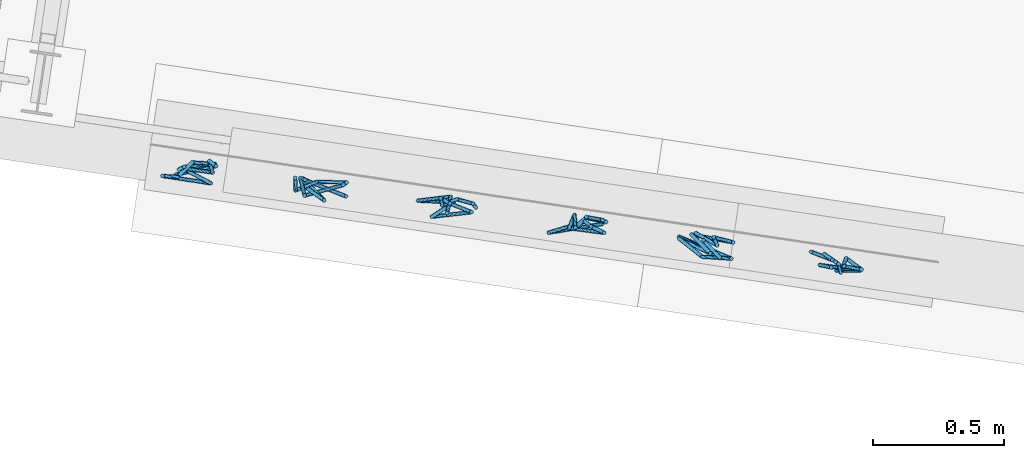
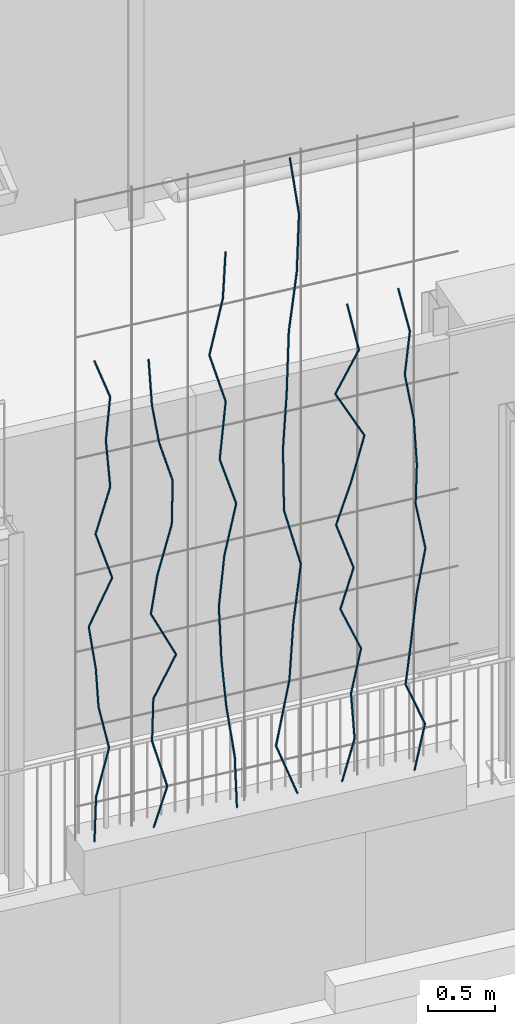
# One storey, part 105 of 142: 66 members, 1 element without a shape of its own.
"""IFC4 building model written with IfcOpenShell, lengths in metres."""

from ifc_helpers import new_model, si_unit, direction, frame, origin_with_axes, place, context, subcontext, project, spatial, circle, extrude, material, material_profile, profile_set, profile_usage, type_object, element, aggregate, save


model = new_model("IFC4")

# Units and contexts
model_context = context("Model", 3, precision=1e-05, world=origin_with_axes(), true_north=direction((0.0, 1.0)))
body_context = subcontext(model_context, "Body", "Model", "MODEL_VIEW")
ifc_project = project(units=[si_unit("VOLUMEUNIT", "CUBIC_METRE"), si_unit("LENGTHUNIT", "METRE"), si_unit("AREAUNIT", "SQUARE_METRE")], contexts=[model_context])

# Site, building, storey
site_placement = place(None, origin_with_axes())
site = spatial("IfcSite", under=ifc_project, at=site_placement, Name="Lares · Rua das Mercês · artigo 4771")
building_placement = place(site_placement, frame((12.0, 10.2, 13.9), z_axis=(0.0, 0.0, 1.0), x_axis=(0.989015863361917, -0.147809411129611, 0.0)))
building = spatial("IfcBuilding", under=site, at=building_placement, Name="Casa Sobreposta")
storey_placement = place(building_placement, origin_with_axes())
storey = spatial("IfcBuildingStorey", under=building, at=storey_placement, Name="00 · Habitação e estacionamento", Elevation=13.9)

# Assembly, members
assembly_placement = place(storey_placement, origin_with_axes())
assembly = element("IfcElementAssembly", 1, at=assembly_placement, inside=storey, Name="Fachada sul e pátio · estrutura e trepadeiras", ObjectType="LIVING_SHADE_TRELLIS", PredefinedType="USERDEFINED")
ifc_material = material(Name="Ramos de trepadeiras", Category="wood")
ifc_material_profile = material_profile(ifc_material, circle(Radius=0.0075))
ifc_profile_set = profile_set([ifc_material_profile], Name="D0.015")
ifc_profile_usage_1 = profile_usage(ifc_profile_set)
member_type = type_object("IfcMemberType", Name="D0.015 / vine_wood", PredefinedType="NOTDEFINED", material=ifc_profile_set)
member_1_placement = place(assembly_placement, frame((0.571287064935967, -1.6890751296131, 0.35), z_axis=(0.0449251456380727, 0.0325114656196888, 0.99846118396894), x_axis=(0.586266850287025, -0.810118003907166, 0.0)))
member_1 = element("IfcMember", 2, at=member_1_placement, type_object=member_type, material=ifc_profile_usage_1, Name="Trepadeiras · ramo", context=body_context, shape_type="SweptSolid", body=[
    extrude(circle(Radius=0.0075), origin_with_axes(), (0.0, 0.0, 1.0), 0.398376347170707),
])
ifc_profile_usage_2 = profile_usage(ifc_profile_set)
member_2_placement = place(assembly_placement, frame((0.589184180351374, -1.67612333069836, 0.747763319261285), z_axis=(0.276858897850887, 0.0690830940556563, 0.958424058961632), x_axis=(0.242101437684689, -0.970250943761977, 0.0)))
member_2 = element("IfcMember", 3, at=member_2_placement, type_object=member_type, material=ifc_profile_usage_2, Name="Trepadeiras · ramo", context=body_context, shape_type="SweptSolid", body=[
    extrude(circle(Radius=0.0075), origin_with_axes(), (0.0, 0.0, 1.0), 0.415018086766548),
])
ifc_profile_usage_3 = profile_usage(ifc_profile_set)
member_3_placement = place(assembly_placement, frame((0.704085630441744, -1.64745259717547, 1.14552663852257), z_axis=(-0.213497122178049, -0.0182552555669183, 0.976773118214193), x_axis=(-0.0851949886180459, 0.996364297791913, 0.0)))
member_3 = element("IfcMember", 4, at=member_3_placement, type_object=member_type, material=ifc_profile_usage_3, Name="Trepadeiras · ramo", context=body_context, shape_type="SweptSolid", body=[
    extrude(circle(Radius=0.0075), origin_with_axes(), (0.0, 0.0, 1.0), 0.40722181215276),
])
ifc_profile_usage_4 = profile_usage(ifc_profile_set)
member_4_placement = place(assembly_placement, frame((0.617144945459, -1.65488653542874, 1.54328995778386), z_axis=(-0.114116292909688, -0.154704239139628, 0.981348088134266), x_axis=(-0.80474844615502, 0.593615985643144, 0.0)))
member_4 = element("IfcMember", 5, at=member_4_placement, type_object=member_type, material=ifc_profile_usage_4, Name="Trepadeiras · ramo", context=body_context, shape_type="SweptSolid", body=[
    extrude(circle(Radius=0.0075), origin_with_axes(), (0.0, 0.0, 1.0), 0.405323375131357),
])
ifc_profile_usage_5 = profile_usage(ifc_profile_set)
member_5_placement = place(assembly_placement, frame((0.570890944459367, -1.71759177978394, 1.94105327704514), z_axis=(-0.145417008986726, -0.0128334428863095, 0.989287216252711), x_axis=(-0.0879110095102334, 0.996128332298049, 0.0)))
member_5 = element("IfcMember", 6, at=member_5_placement, type_object=member_type, material=ifc_profile_usage_5, Name="Trepadeiras · ramo", context=body_context, shape_type="SweptSolid", body=[
    extrude(circle(Radius=0.0075), origin_with_axes(), (0.0, 0.0, 1.0), 0.402070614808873),
])
ifc_profile_usage_6 = profile_usage(ifc_profile_set)
member_6_placement = place(assembly_placement, frame((0.512423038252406, -1.72275173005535, 2.33881659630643), z_axis=(0.425540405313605, -0.000956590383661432, 0.904938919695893), x_axis=(-0.00224793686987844, -0.999997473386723, 0.0)))
member_6 = element("IfcMember", 7, at=member_6_placement, type_object=member_type, material=ifc_profile_usage_6, Name="Trepadeiras · ramo", context=body_context, shape_type="SweptSolid", body=[
    extrude(circle(Radius=0.0075), origin_with_axes(), (0.0, 0.0, 1.0), 0.439547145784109),
])
ifc_profile_usage_7 = profile_usage(ifc_profile_set)
member_7_placement = place(assembly_placement, frame((0.699468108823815, -1.72317219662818, 2.73657991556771), z_axis=(-0.279690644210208, 0.0988134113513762, 0.954991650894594), x_axis=(0.333117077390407, 0.942885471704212, 0.0)))
member_7 = element("IfcMember", 8, at=member_7_placement, type_object=member_type, material=ifc_profile_usage_7, Name="Trepadeiras · ramo", context=body_context, shape_type="SweptSolid", body=[
    extrude(circle(Radius=0.0075), origin_with_axes(), (0.0, 0.0, 1.0), 0.416509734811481),
])
ifc_profile_usage_8 = profile_usage(ifc_profile_set)
member_8_placement = place(assembly_placement, frame((0.582974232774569, -1.6820154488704, 3.134343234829), z_axis=(0.282811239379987, 0.00141958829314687, 0.959174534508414), x_axis=(0.00501949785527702, -0.999987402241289, 0.0)))
member_8 = element("IfcMember", 9, at=member_8_placement, type_object=member_type, material=ifc_profile_usage_8, Name="Trepadeiras · ramo", context=body_context, shape_type="SweptSolid", body=[
    extrude(circle(Radius=0.0075), origin_with_axes(), (0.0, 0.0, 1.0), 0.414693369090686),
])
ifc_profile_usage_9 = profile_usage(ifc_profile_set)
member_9_placement = place(assembly_placement, frame((0.700254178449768, -1.68142675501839, 3.53210655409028), z_axis=(-0.0466461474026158, 0.103318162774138, 0.993553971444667), x_axis=(0.911415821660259, 0.411486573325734, 0.0)))
member_9 = element("IfcMember", 10, at=member_9_placement, type_object=member_type, material=ifc_profile_usage_9, Name="Trepadeiras · ramo", context=body_context, shape_type="SweptSolid", body=[
    extrude(circle(Radius=0.0075), origin_with_axes(), (0.0, 0.0, 1.0), 0.400343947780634),
])
ifc_profile_usage_10 = profile_usage(ifc_profile_set)
member_10_placement = place(assembly_placement, frame((0.681579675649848, -1.64006395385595, 3.92986987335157), z_axis=(0.0709561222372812, -0.0384390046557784, 0.996738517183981), x_axis=(-0.476325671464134, -0.879268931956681, 0.0)))
member_10 = element("IfcMember", 11, at=member_10_placement, type_object=member_type, material=ifc_profile_usage_10, Name="Trepadeiras · ramo", context=body_context, shape_type="SweptSolid", body=[
    extrude(circle(Radius=0.0075), origin_with_axes(), (0.0, 0.0, 1.0), 0.399064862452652),
])
ifc_profile_usage_11 = profile_usage(ifc_profile_set)
member_11_placement = place(assembly_placement, frame((0.709895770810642, -1.65540360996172, 4.32763319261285), z_axis=(-0.343609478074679, -0.127449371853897, 0.930424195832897), x_axis=(-0.347762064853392, 0.937582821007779, 0.0)))
member_11 = element("IfcMember", 12, at=member_11_placement, type_object=member_type, material=ifc_profile_usage_11, Name="Trepadeiras · ramo", context=body_context, shape_type="SweptSolid", body=[
    extrude(circle(Radius=0.0075), origin_with_axes(), (0.0, 0.0, 1.0), 0.427507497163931),
])
ifc_profile_usage_12 = profile_usage(ifc_profile_set)
member_12_placement = place(assembly_placement, frame((1.04734269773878, -1.67706195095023, 0.35), z_axis=(0.229015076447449, -0.117080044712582, 0.96635622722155), x_axis=(-0.455197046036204, -0.890390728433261, 0.0)))
member_12 = element("IfcMember", 13, at=member_12_placement, type_object=member_type, material=ifc_profile_usage_12, Name="Trepadeiras · ramo", context=body_context, shape_type="SweptSolid", body=[
    extrude(circle(Radius=0.0075), origin_with_axes(), (0.0, 0.0, 1.0), 0.398527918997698),
])
ifc_profile_usage_13 = profile_usage(ifc_profile_set)
member_13_placement = place(assembly_placement, frame((1.13861159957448, -1.7237216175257, 0.735119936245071), z_axis=(-0.231181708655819, 0.178601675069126, 0.956376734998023), x_axis=(0.611364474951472, 0.791349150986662, 0.0)))
member_13 = element("IfcMember", 14, at=member_13_placement, type_object=member_type, material=ifc_profile_usage_13, Name="Trepadeiras · ramo", context=body_context, shape_type="SweptSolid", body=[
    extrude(circle(Radius=0.0075), origin_with_axes(), (0.0, 0.0, 1.0), 0.402686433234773),
])
ifc_profile_usage_14 = profile_usage(ifc_profile_set)
member_14_placement = place(assembly_placement, frame((1.04551786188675, -1.65180114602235, 1.12023987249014), z_axis=(0.0216441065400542, -0.0116928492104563, 0.999697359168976), x_axis=(0.999765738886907, 0.000253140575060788, -0.0216426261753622)))
member_14 = element("IfcMember", 15, at=member_14_placement, type_object=member_type, material=ifc_profile_usage_14, Name="Trepadeiras · ramo", context=body_context, shape_type="SweptSolid", body=[
    extrude(circle(Radius=0.0075), origin_with_axes(), (0.0, 0.0, 1.0), 0.385236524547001),
])
ifc_profile_usage_15 = profile_usage(ifc_profile_set)
member_15_placement = place(assembly_placement, frame((1.05385596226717, -1.65630565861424, 1.50535980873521), z_axis=(0.393275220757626, -0.0947020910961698, 0.914530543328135), x_axis=(-0.234111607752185, -0.972209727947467, 0.0)))
member_15 = element("IfcMember", 16, at=member_15_placement, type_object=member_type, material=ifc_profile_usage_15, Name="Trepadeiras · ramo", context=body_context, shape_type="SweptSolid", body=[
    extrude(circle(Radius=0.0075), origin_with_axes(), (0.0, 0.0, 1.0), 0.421112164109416),
])
ifc_profile_usage_16 = profile_usage(ifc_profile_set)
member_16_placement = place(assembly_placement, frame((1.21946894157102, -1.69618586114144, 1.89047974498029), z_axis=(-0.42862490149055, 0.100433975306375, 0.89788290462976), x_axis=(0.228137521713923, 0.973628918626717, 0.0)))
member_16 = element("IfcMember", 17, at=member_16_placement, type_object=member_type, material=ifc_profile_usage_16, Name="Trepadeiras · ramo", context=body_context, shape_type="SweptSolid", body=[
    extrude(circle(Radius=0.0075), origin_with_axes(), (0.0, 0.0, 1.0), 0.428920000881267),
])
ifc_profile_usage_17 = profile_usage(ifc_profile_set)
member_17_placement = place(assembly_placement, frame((1.03562314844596, -1.65310772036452, 2.27559968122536), z_axis=(0.0671815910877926, -0.16244307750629, 0.984428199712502), x_axis=(-0.924089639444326, -0.382175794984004, 0.0)))
member_17 = element("IfcMember", 18, at=member_17_placement, type_object=member_type, material=ifc_profile_usage_17, Name="Trepadeiras · ramo", context=body_context, shape_type="SweptSolid", body=[
    extrude(circle(Radius=0.0075), origin_with_axes(), (0.0, 0.0, 1.0), 0.391211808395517),
])
ifc_profile_usage_18 = profile_usage(ifc_profile_set)
member_18_placement = place(assembly_placement, frame((1.0619053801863, -1.71665737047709, 2.66071961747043), z_axis=(0.335740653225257, 0.148049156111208, 0.930247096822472), x_axis=(0.403476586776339, -0.914989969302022, 0.0)))
member_18 = element("IfcMember", 19, at=member_18_placement, type_object=member_type, material=ifc_profile_usage_18, Name="Trepadeiras · ramo", context=body_context, shape_type="SweptSolid", body=[
    extrude(circle(Radius=0.0075), origin_with_axes(), (0.0, 0.0, 1.0), 0.413997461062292),
])
ifc_profile_usage_19 = profile_usage(ifc_profile_set)
member_19_placement = place(assembly_placement, frame((1.20090115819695, -1.65536539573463, 3.0458395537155), z_axis=(0.0333928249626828, 0.0321702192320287, 0.998924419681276), x_axis=(0.693800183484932, -0.720167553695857, 0.0)))
member_19 = element("IfcMember", 20, at=member_19_placement, type_object=member_type, material=ifc_profile_usage_19, Name="Trepadeiras · ramo", context=body_context, shape_type="SweptSolid", body=[
    extrude(circle(Radius=0.0075), origin_with_axes(), (0.0, 0.0, 1.0), 0.385534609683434),
])
ifc_profile_usage_20 = profile_usage(ifc_profile_set)
member_20_placement = place(assembly_placement, frame((1.21377524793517, -1.64296266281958, 3.43095948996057), z_axis=(-0.285637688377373, -0.0387161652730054, 0.957555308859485), x_axis=(-0.134314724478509, 0.990938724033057, 0.0)))
member_20 = element("IfcMember", 21, at=member_20_placement, type_object=member_type, material=ifc_profile_usage_20, Name="Trepadeiras · ramo", context=body_context, shape_type="SweptSolid", body=[
    extrude(circle(Radius=0.0075), origin_with_axes(), (0.0, 0.0, 1.0), 0.402190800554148),
])
ifc_profile_usage_21 = profile_usage(ifc_profile_set)
member_21_placement = place(assembly_placement, frame((1.09889439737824, -1.65853394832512, 3.81607942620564), z_axis=(-0.188349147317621, -0.110786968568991, 0.975833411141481), x_axis=(-0.506997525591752, 0.861947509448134, 0.0)))
member_21 = element("IfcMember", 22, at=member_21_placement, type_object=member_type, material=ifc_profile_usage_21, Name="Trepadeiras · ramo", context=body_context, shape_type="SweptSolid", body=[
    extrude(circle(Radius=0.0075), origin_with_axes(), (0.0, 0.0, 1.0), 0.394657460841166),
])
ifc_profile_usage_22 = profile_usage(ifc_profile_set)
member_22_placement = place(assembly_placement, frame((1.02456100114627, -1.70225685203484, 4.20119936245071), z_axis=(-0.020767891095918, 0.121017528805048, 0.992433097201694), x_axis=(0.985592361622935, 0.169138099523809, 0.0)))
member_22 = element("IfcMember", 23, at=member_22_placement, type_object=member_type, material=ifc_profile_usage_22, Name="Trepadeiras · ramo", context=body_context, shape_type="SweptSolid", body=[
    extrude(circle(Radius=0.0075), origin_with_axes(), (0.0, 0.0, 1.0), 0.388056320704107),
])
ifc_profile_usage_23 = profile_usage(ifc_profile_set)
member_23_placement = place(assembly_placement, frame((1.71733061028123, -1.66508877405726, 0.35), z_axis=(-0.0274245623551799, 0.0282673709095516, 0.999224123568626), x_axis=(0.999623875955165, 0.000775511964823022, 0.0274135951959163)))
member_23 = element("IfcMember", 24, at=member_23_placement, type_object=member_type, material=ifc_profile_usage_23, Name="Trepadeiras · ramo", context=body_context, shape_type="SweptSolid", body=[
    extrude(circle(Radius=0.0075), origin_with_axes(), (0.0, 0.0, 1.0), 0.463061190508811),
])
ifc_profile_usage_24 = profile_usage(ifc_profile_set)
member_24_placement = place(assembly_placement, frame((1.70463135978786, -1.65199925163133, 0.812701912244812), z_axis=(-0.136638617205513, 0.0166942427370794, 0.99048028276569), x_axis=(0.121276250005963, 0.992618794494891, 0.0)))
member_24 = element("IfcMember", 25, at=member_24_placement, type_object=member_type, material=ifc_profile_usage_24, Name="Trepadeiras · ramo", context=body_context, shape_type="SweptSolid", body=[
    extrude(circle(Radius=0.0075), origin_with_axes(), (0.0, 0.0, 1.0), 0.467149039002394),
])
ifc_profile_usage_25 = profile_usage(ifc_profile_set)
member_25_placement = place(assembly_placement, frame((1.64080076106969, -1.64420055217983, 1.27540382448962), z_axis=(-0.111142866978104, -0.0681510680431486, 0.991464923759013), x_axis=(-0.522736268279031, 0.852494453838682, 0.0)))
member_25 = element("IfcMember", 26, at=member_25_placement, type_object=member_type, material=ifc_profile_usage_25, Name="Trepadeiras · ramo", context=body_context, shape_type="SweptSolid", body=[
    extrude(circle(Radius=0.0075), origin_with_axes(), (0.0, 0.0, 1.0), 0.466685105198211),
])
ifc_profile_usage_26 = profile_usage(ifc_profile_set)
member_26_placement = place(assembly_placement, frame((1.58893204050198, -1.67600564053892, 1.73810573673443), z_axis=(-0.0213857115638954, 0.0558126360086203, 0.998212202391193), x_axis=(0.933797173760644, 0.357802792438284, 0.0)))
member_26 = element("IfcMember", 27, at=member_26_placement, type_object=member_type, material=ifc_profile_usage_26, Name="Trepadeiras · ramo", context=body_context, shape_type="SweptSolid", body=[
    extrude(circle(Radius=0.0075), origin_with_axes(), (0.0, 0.0, 1.0), 0.463530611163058),
])
ifc_profile_usage_27 = profile_usage(ifc_profile_set)
member_27_placement = place(assembly_placement, frame((1.57901910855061, -1.65013477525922, 2.20080764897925), z_axis=(0.0820466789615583, -0.0300995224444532, 0.996173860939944), x_axis=(-0.344413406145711, -0.938818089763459, 0.0)))
member_27 = element("IfcMember", 28, at=member_27_placement, type_object=member_type, material=ifc_profile_usage_27, Name="Trepadeiras · ramo", context=body_context, shape_type="SweptSolid", body=[
    extrude(circle(Radius=0.0075), origin_with_axes(), (0.0, 0.0, 1.0), 0.464479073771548),
])
ifc_profile_usage_28 = profile_usage(ifc_profile_set)
member_28_placement = place(assembly_placement, frame((1.61712807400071, -1.66411537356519, 2.66350956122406), z_axis=(0.183682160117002, -0.0443518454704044, 0.981984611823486), x_axis=(-0.234714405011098, -0.972064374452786, 0.0)))
member_28 = element("IfcMember", 29, at=member_28_placement, type_object=member_type, material=ifc_profile_usage_28, Name="Trepadeiras · ramo", context=body_context, shape_type="SweptSolid", body=[
    extrude(circle(Radius=0.0075), origin_with_axes(), (0.0, 0.0, 1.0), 0.471190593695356),
])
ifc_profile_usage_29 = profile_usage(ifc_profile_set)
member_29_placement = place(assembly_placement, frame((1.70367738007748, -1.68501354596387, 3.12621147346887), z_axis=(-0.302591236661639, -0.0817091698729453, 0.949611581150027), x_axis=(-0.26069420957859, 0.965421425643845, 0.0)))
member_29 = element("IfcMember", 30, at=member_29_placement, type_object=member_type, material=ifc_profile_usage_29, Name="Trepadeiras · ramo", context=body_context, shape_type="SweptSolid", body=[
    extrude(circle(Radius=0.0075), origin_with_axes(), (0.0, 0.0, 1.0), 0.48725386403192),
])
ifc_profile_usage_30 = profile_usage(ifc_profile_set)
member_30_placement = place(assembly_placement, frame((1.5562386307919, -1.72482665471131, 3.58891338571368), z_axis=(0.156237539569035, 0.141385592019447, 0.97754792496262), x_axis=(0.670985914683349, -0.741470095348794, 0.0)))
member_30 = element("IfcMember", 31, at=member_30_placement, type_object=member_type, material=ifc_profile_usage_30, Name="Trepadeiras · ramo", context=body_context, shape_type="SweptSolid", body=[
    extrude(circle(Radius=0.0075), origin_with_axes(), (0.0, 0.0, 1.0), 0.473329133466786),
])
ifc_profile_usage_31 = profile_usage(ifc_profile_set)
member_31_placement = place(assembly_placement, frame((1.6301904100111, -1.65790473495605, 4.05161529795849), z_axis=(-0.280938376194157, -0.0286551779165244, 0.959297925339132), x_axis=(-0.101471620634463, 0.994838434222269, -5.89284812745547e-18)))
member_31 = element("IfcMember", 32, at=member_31_placement, type_object=member_type, material=ifc_profile_usage_31, Name="Trepadeiras · ramo", context=body_context, shape_type="SweptSolid", body=[
    extrude(circle(Radius=0.0075), origin_with_axes(), (0.0, 0.0, 1.0), 0.482333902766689),
])
ifc_profile_usage_32 = profile_usage(ifc_profile_set)
member_32_placement = place(assembly_placement, frame((1.49468430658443, -1.671726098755, 4.5143172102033), z_axis=(0.252230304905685, 0.0696713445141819, 0.965155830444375), x_axis=(0.266250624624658, -0.963903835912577, 0.0)))
member_32 = element("IfcMember", 33, at=member_32_placement, type_object=member_type, material=ifc_profile_usage_32, Name="Trepadeiras · ramo", context=body_context, shape_type="SweptSolid", body=[
    extrude(circle(Radius=0.0075), origin_with_axes(), (0.0, 0.0, 1.0), 0.479406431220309),
])
ifc_profile_usage_33 = profile_usage(ifc_profile_set)
member_33_placement = place(assembly_placement, frame((1.61560513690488, -1.63832520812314, 4.97701912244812), z_axis=(-0.00860203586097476, -0.137344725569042, 0.990485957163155), x_axis=(-0.998044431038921, 0.0625085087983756, 0.0)))
member_33 = element("IfcMember", 34, at=member_33_placement, type_object=member_type, material=ifc_profile_usage_33, Name="Trepadeiras · ramo", context=body_context, shape_type="SweptSolid", body=[
    extrude(circle(Radius=0.0075), origin_with_axes(), (0.0, 0.0, 1.0), 0.467146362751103),
])
ifc_profile_usage_34 = profile_usage(ifc_profile_set)
member_34_placement = place(assembly_placement, frame((2.20504544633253, -1.65602444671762, 0.35), z_axis=(-0.350256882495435, -0.111665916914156, 0.929973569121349), x_axis=(-0.303748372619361, 0.952752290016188, 0.0)))
member_34 = element("IfcMember", 35, at=member_34_placement, type_object=member_type, material=ifc_profile_usage_34, Name="Trepadeiras · ramo", context=body_context, shape_type="SweptSolid", body=[
    extrude(circle(Radius=0.0075), origin_with_axes(), (0.0, 0.0, 1.0), 0.563663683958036),
])
ifc_profile_usage_35 = profile_usage(ifc_profile_set)
member_35_placement = place(assembly_placement, frame((2.0076183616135, -1.718966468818, 0.874192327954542), z_axis=(0.241728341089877, 0.114522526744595, 0.963562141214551), x_axis=(0.428146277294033, -0.903709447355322, 0.0)))
member_35 = element("IfcMember", 36, at=member_35_placement, type_object=member_type, material=ifc_profile_usage_35, Name="Trepadeiras · ramo", context=body_context, shape_type="SweptSolid", body=[
    extrude(circle(Radius=0.0075), origin_with_axes(), (0.0, 0.0, 1.0), 0.544015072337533),
])
ifc_profile_usage_36 = profile_usage(ifc_profile_set)
member_36_placement = place(assembly_placement, frame((2.13912222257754, -1.65666448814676, 1.39838465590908), z_axis=(0.0486686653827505, -0.0273178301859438, 0.998441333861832), x_axis=(-0.489467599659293, -0.872021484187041, 0.0)))
member_36 = element("IfcMember", 37, at=member_36_placement, type_object=member_type, material=ifc_profile_usage_36, Name="Trepadeiras · ramo", context=body_context, shape_type="SweptSolid", body=[
    extrude(circle(Radius=0.0075), origin_with_axes(), (0.0, 0.0, 1.0), 0.525010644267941),
])
ifc_profile_usage_37 = profile_usage(ifc_profile_set)
member_37_placement = place(assembly_placement, frame((2.1646737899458, -1.67100663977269, 1.92257698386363), z_axis=(0.101136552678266, -0.0322293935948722, 0.99435037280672), x_axis=(-0.30362778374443, -0.952790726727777, 0.0)))
member_37 = element("IfcMember", 38, at=member_37_placement, type_object=member_type, material=ifc_profile_usage_37, Name="Trepadeiras · ramo", context=body_context, shape_type="SweptSolid", body=[
    extrude(circle(Radius=0.0075), origin_with_axes(), (0.0, 0.0, 1.0), 0.527170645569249),
])
ifc_profile_usage_38 = profile_usage(ifc_profile_set)
member_38_placement = place(assembly_placement, frame((2.21799001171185, -1.6879970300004, 2.44676931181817), z_axis=(-0.250762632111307, -0.00458018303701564, 0.968037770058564), x_axis=(-0.0182619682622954, 0.999833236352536, -8.36945774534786e-19)))
member_38 = element("IfcMember", 39, at=member_38_placement, type_object=member_type, material=ifc_profile_usage_38, Name="Trepadeiras · ramo", context=body_context, shape_type="SweptSolid", body=[
    extrude(circle(Radius=0.0075), origin_with_axes(), (0.0, 0.0, 1.0), 0.541499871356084),
])
ifc_profile_usage_39 = profile_usage(ifc_profile_set)
member_39_placement = place(assembly_placement, frame((2.08220207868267, -1.69047719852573, 2.97096163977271), z_axis=(0.025812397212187, 0.101382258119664, 0.994512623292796), x_axis=(0.969083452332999, -0.246733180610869, 0.0)))
member_39 = element("IfcMember", 40, at=member_39_placement, type_object=member_type, material=ifc_profile_usage_39, Name="Trepadeiras · ramo", context=body_context, shape_type="SweptSolid", body=[
    extrude(circle(Radius=0.0075), origin_with_axes(), (0.0, 0.0, 1.0), 0.527084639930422),
])
ifc_profile_usage_40 = profile_usage(ifc_profile_set)
member_40_placement = place(assembly_placement, frame((2.09580739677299, -1.6370401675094, 3.49515396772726), z_axis=(0.0194798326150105, -0.0905860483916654, 0.995698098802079), x_axis=(-0.977650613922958, -0.210236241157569, 0.0)))
member_40 = element("IfcMember", 41, at=member_40_placement, type_object=member_type, material=ifc_profile_usage_40, Name="Trepadeiras · ramo", context=body_context, shape_type="SweptSolid", body=[
    extrude(circle(Radius=0.0075), origin_with_axes(), (0.0, 0.0, 1.0), 0.526457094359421),
])
ifc_profile_usage_41 = profile_usage(ifc_profile_set)
member_41_placement = place(assembly_placement, frame((2.1060626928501, -1.68472983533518, 4.0193462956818), z_axis=(0.0669423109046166, 0.0872603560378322, 0.993933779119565), x_axis=(0.793418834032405, -0.608676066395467, 0.0)))
member_41 = element("IfcMember", 42, at=member_41_placement, type_object=member_type, material=ifc_profile_usage_41, Name="Trepadeiras · ramo", context=body_context, shape_type="SweptSolid", body=[
    extrude(circle(Radius=0.0075), origin_with_axes(), (0.0, 0.0, 1.0), 0.527391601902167),
])
ifc_profile_usage_42 = profile_usage(ifc_profile_set)
member_42_placement = place(assembly_placement, frame((2.14136750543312, -1.63870945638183, 4.54353862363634), z_axis=(0.118893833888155, -0.00365784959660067, 0.992900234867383), x_axis=(-0.0307511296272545, -0.999527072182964, 0.0)))
member_42 = element("IfcMember", 43, at=member_42_placement, type_object=member_type, material=ifc_profile_usage_42, Name="Trepadeiras · ramo", context=body_context, shape_type="SweptSolid", body=[
    extrude(circle(Radius=0.0075), origin_with_axes(), (0.0, 0.0, 1.0), 0.527940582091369),
])
ifc_profile_usage_43 = profile_usage(ifc_profile_set)
member_43_placement = place(assembly_placement, frame((2.2041363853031, -1.64064058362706, 5.06773095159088), z_axis=(0.0291414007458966, -0.0113355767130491, 0.999511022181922), x_axis=(0.999575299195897, 0.000330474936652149, -0.0291395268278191)))
member_43 = element("IfcMember", 44, at=member_43_placement, type_object=member_type, material=ifc_profile_usage_43, Name="Trepadeiras · ramo", context=body_context, shape_type="SweptSolid", body=[
    extrude(circle(Radius=0.0075), origin_with_axes(), (0.0, 0.0, 1.0), 0.524448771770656),
])
ifc_profile_usage_44 = profile_usage(ifc_profile_set)
member_44_placement = place(assembly_placement, frame((2.21941955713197, -1.64658551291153, 5.59192327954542), z_axis=(-0.13503851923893, 0.00826567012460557, 0.99080587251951), x_axis=(0.0610953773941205, 0.998131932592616, 0.0)))
member_44 = element("IfcMember", 45, at=member_44_placement, type_object=member_type, material=ifc_profile_usage_44, Name="Trepadeiras · ramo", context=body_context, shape_type="SweptSolid", body=[
    extrude(circle(Radius=0.0075), origin_with_axes(), (0.0, 0.0, 1.0), 0.529056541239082),
])
ifc_profile_usage_45 = profile_usage(ifc_profile_set)
member_45_placement = place(assembly_placement, frame((2.5650621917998, -1.63745860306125, 0.35), z_axis=(0.217584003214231, -0.0844428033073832, 0.972381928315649), x_axis=(-0.361801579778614, -0.932255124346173, 0.0)))
member_45 = element("IfcMember", 46, at=member_45_placement, type_object=member_type, material=ifc_profile_usage_45, Name="Trepadeiras · ramo", context=body_context, shape_type="SweptSolid", body=[
    extrude(circle(Radius=0.0075), origin_with_axes(), (0.0, 0.0, 1.0), 0.405295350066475),
])
ifc_profile_usage_46 = profile_usage(ifc_profile_set)
member_46_placement = place(assembly_placement, frame((2.65324797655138, -1.67168287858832, 0.744101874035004), z_axis=(-0.0446122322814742, 0.071783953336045, 0.99642200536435), x_axis=(0.849339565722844, 0.527846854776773, 0.0)))
member_46 = element("IfcMember", 47, at=member_46_placement, type_object=member_type, material=ifc_profile_usage_46, Name="Trepadeiras · ramo", context=body_context, shape_type="SweptSolid", body=[
    extrude(circle(Radius=0.0075), origin_with_axes(), (0.0, 0.0, 1.0), 0.395517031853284),
])
ifc_profile_usage_47 = profile_usage(ifc_profile_set)
member_47_placement = place(assembly_placement, frame((2.63560307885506, -1.64329110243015, 1.13820374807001), z_axis=(0.191217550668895, -0.0202648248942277, 0.981338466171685), x_axis=(-0.105387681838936, -0.99443121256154, 0.0)))
member_47 = element("IfcMember", 48, at=member_47_placement, type_object=member_type, material=ifc_profile_usage_47, Name="Trepadeiras · ramo", context=body_context, shape_type="SweptSolid", body=[
    extrude(circle(Radius=0.0075), origin_with_axes(), (0.0, 0.0, 1.0), 0.401596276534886),
])
ifc_profile_usage_48 = profile_usage(ifc_profile_set)
member_48_placement = place(assembly_placement, frame((2.71239533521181, -1.6514293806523, 1.53230562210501), z_axis=(-0.381397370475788, 0.0145458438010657, 0.924296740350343), x_axis=(0.0381105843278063, 0.999273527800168, 0.0)))
member_48 = element("IfcMember", 49, at=member_48_placement, type_object=member_type, material=ifc_profile_usage_48, Name="Trepadeiras · ramo", context=body_context, shape_type="SweptSolid", body=[
    extrude(circle(Radius=0.0075), origin_with_axes(), (0.0, 0.0, 1.0), 0.426380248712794),
])
ifc_profile_usage_49 = profile_usage(ifc_profile_set)
member_49_placement = place(assembly_placement, frame((2.54977502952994, -1.64522732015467, 1.92640749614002), z_axis=(0.201463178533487, -0.149567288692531, 0.968009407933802), x_axis=(-0.596090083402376, -0.802917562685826, 0.0)))
member_49 = element("IfcMember", 50, at=member_49_placement, type_object=member_type, material=ifc_profile_usage_49, Name="Trepadeiras · ramo", context=body_context, shape_type="SweptSolid", body=[
    extrude(circle(Radius=0.0075), origin_with_axes(), (0.0, 0.0, 1.0), 0.407126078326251),
])
ifc_profile_usage_50 = profile_usage(ifc_profile_set)
member_50_placement = place(assembly_placement, frame((2.63179594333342, -1.70612006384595, 2.32050937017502), z_axis=(-0.301300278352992, 0.0916413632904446, 0.949115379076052), x_axis=(0.290990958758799, 0.956725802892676, 0.0)))
member_50 = element("IfcMember", 51, at=member_50_placement, type_object=member_type, material=ifc_profile_usage_50, Name="Trepadeiras · ramo", context=body_context, shape_type="SweptSolid", body=[
    extrude(circle(Radius=0.0075), origin_with_axes(), (0.0, 0.0, 1.0), 0.415230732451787),
])
ifc_profile_usage_51 = profile_usage(ifc_profile_set)
member_51_placement = place(assembly_placement, frame((2.50668680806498, -1.66806775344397, 2.71461124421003), z_axis=(0.235443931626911, -0.134776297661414, 0.962497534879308), x_axis=(-0.496797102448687, -0.86786671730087, 0.0)))
member_51 = element("IfcMember", 52, at=member_51_placement, type_object=member_type, material=ifc_profile_usage_51, Name="Trepadeiras · ramo", context=body_context, shape_type="SweptSolid", body=[
    extrude(circle(Radius=0.0075), origin_with_axes(), (0.0, 0.0, 1.0), 0.40945754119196),
])
ifc_profile_usage_52 = profile_usage(ifc_profile_set)
member_52_placement = place(assembly_placement, frame((2.6030911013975, -1.72325292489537, 3.10871311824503), z_axis=(0.272680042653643, 0.0225825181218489, 0.961839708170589), x_axis=(0.0825343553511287, -0.996588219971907, 0.0)))
member_52 = element("IfcMember", 53, at=member_52_placement, type_object=member_type, material=ifc_profile_usage_52, Name="Trepadeiras · ramo", context=body_context, shape_type="SweptSolid", body=[
    extrude(circle(Radius=0.0075), origin_with_axes(), (0.0, 0.0, 1.0), 0.409737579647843),
])
ifc_profile_usage_53 = profile_usage(ifc_profile_set)
member_53_placement = place(assembly_placement, frame((2.71481836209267, -1.71400001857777, 3.50281499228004), z_axis=(-0.468904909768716, 0.119291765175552, 0.875155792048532), x_axis=(0.246551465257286, 0.969129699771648, 0.0)))
member_53 = element("IfcMember", 54, at=member_53_placement, type_object=member_type, material=ifc_profile_usage_53, Name="Trepadeiras · ramo", context=body_context, shape_type="SweptSolid", body=[
    extrude(circle(Radius=0.0075), origin_with_axes(), (0.0, 0.0, 1.0), 0.45032196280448),
])
ifc_profile_usage_54 = profile_usage(ifc_profile_set)
member_54_placement = place(assembly_placement, frame((2.50366018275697, -1.66028031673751, 3.89691686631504), z_axis=(0.38480684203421, -0.130123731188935, 0.913778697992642), x_axis=(-0.320334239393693, -0.947304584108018, 0.0)))
member_54 = element("IfcMember", 55, at=member_54_placement, type_object=member_type, material=ifc_profile_usage_54, Name="Trepadeiras · ramo", context=body_context, shape_type="SweptSolid", body=[
    extrude(circle(Radius=0.0075), origin_with_axes(), (0.0, 0.0, 1.0), 0.431288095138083),
])
ifc_profile_usage_55 = profile_usage(ifc_profile_set)
member_55_placement = place(assembly_placement, frame((2.669622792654, -1.71640113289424, 4.29101874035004), z_axis=(-0.176688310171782, 0.139007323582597, 0.974401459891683), x_axis=(0.61831865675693, 0.785927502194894, 0.0)))
member_55 = element("IfcMember", 56, at=member_55_placement, type_object=member_type, material=ifc_profile_usage_55, Name="Trepadeiras · ramo", context=body_context, shape_type="SweptSolid", body=[
    extrude(circle(Radius=0.0075), origin_with_axes(), (0.0, 0.0, 1.0), 0.404455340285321),
])
ifc_profile_usage_56 = profile_usage(ifc_profile_set)
member_56_placement = place(assembly_placement, frame((3.11885066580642, -1.69940547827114, 0.35), z_axis=(0.221094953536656, 0.0328171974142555, 0.974699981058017), x_axis=(0.146821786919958, -0.989162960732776, 0.0)))
member_56 = element("IfcMember", 57, at=member_56_placement, type_object=member_type, material=ifc_profile_usage_56, Name="Trepadeiras · ramo", context=body_context, shape_type="SweptSolid", body=[
    extrude(circle(Radius=0.0075), origin_with_axes(), (0.0, 0.0, 1.0), 0.406595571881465),
])
ifc_profile_usage_57 = profile_usage(ifc_profile_set)
member_57_placement = place(assembly_placement, frame((3.20874689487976, -1.68606215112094, 0.746308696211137), z_axis=(-0.364780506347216, -0.00430387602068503, 0.931083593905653), x_axis=(-0.0117977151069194, 0.999930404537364, 0.0)))
member_57 = element("IfcMember", 58, at=member_57_placement, type_object=member_type, material=ifc_profile_usage_57, Name="Trepadeiras · ramo", context=body_context, shape_type="SweptSolid", body=[
    extrude(circle(Radius=0.0075), origin_with_axes(), (0.0, 0.0, 1.0), 0.425642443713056),
])
ifc_profile_usage_58 = profile_usage(ifc_profile_set)
member_58_placement = place(assembly_placement, frame((3.05348082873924, -1.68789406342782, 1.14261739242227), z_axis=(0.111382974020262, -0.0066718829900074, 0.993755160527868), x_axis=(-0.0597932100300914, -0.998210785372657, 0.0)))
member_58 = element("IfcMember", 59, at=member_58_placement, type_object=member_type, material=ifc_profile_usage_58, Name="Trepadeiras · ramo", context=body_context, shape_type="SweptSolid", body=[
    extrude(circle(Radius=0.0075), origin_with_axes(), (0.0, 0.0, 1.0), 0.398799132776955),
])
ifc_profile_usage_59 = profile_usage(ifc_profile_set)
member_59_placement = place(assembly_placement, frame((3.09790026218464, -1.69055480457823, 1.53892608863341), z_axis=(0.119326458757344, 0.0294826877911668, 0.992417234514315), x_axis=(0.239862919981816, -0.970806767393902, 0.0)))
member_59 = element("IfcMember", 60, at=member_59_placement, type_object=member_type, material=ifc_profile_usage_59, Name="Trepadeiras · ramo", context=body_context, shape_type="SweptSolid", body=[
    extrude(circle(Radius=0.0075), origin_with_axes(), (0.0, 0.0, 1.0), 0.39933677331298),
])
ifc_profile_usage_60 = profile_usage(ifc_profile_set)
member_60_placement = place(assembly_placement, frame((3.14555170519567, -1.67878128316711, 1.93523478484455), z_axis=(0.169501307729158, -0.00686405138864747, 0.98550605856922), x_axis=(-0.0404624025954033, -0.9991810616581, 0.0)))
member_60 = element("IfcMember", 61, at=member_60_placement, type_object=member_type, material=ifc_profile_usage_60, Name="Trepadeiras · ramo", context=body_context, shape_type="SweptSolid", body=[
    extrude(circle(Radius=0.0075), origin_with_axes(), (0.0, 0.0, 1.0), 0.40213724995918),
])
ifc_profile_usage_61 = profile_usage(ifc_profile_set)
member_61_placement = place(assembly_placement, frame((3.21371449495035, -1.68154157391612, 2.33154348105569), z_axis=(-0.160243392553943, 0.0841787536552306, 0.983481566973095), x_axis=(0.46505464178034, 0.885281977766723, 0.0)))
member_61 = element("IfcMember", 62, at=member_61_placement, type_object=member_type, material=ifc_profile_usage_61, Name="Trepadeiras · ramo", context=body_context, shape_type="SweptSolid", body=[
    extrude(circle(Radius=0.0075), origin_with_axes(), (0.0, 0.0, 1.0), 0.402965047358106),
])
ifc_profile_usage_62 = profile_usage(ifc_profile_set)
member_62_placement = place(assembly_placement, frame((3.14914200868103, -1.64762047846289, 2.72785217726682), z_axis=(-0.0310480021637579, -0.142038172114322, 0.989374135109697), x_axis=(-0.976932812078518, 0.213546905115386, 5.90228850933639e-18)))
member_62 = element("IfcMember", 63, at=member_62_placement, type_object=member_type, material=ifc_profile_usage_62, Name="Trepadeiras · ramo", context=body_context, shape_type="SweptSolid", body=[
    extrude(circle(Radius=0.0075), origin_with_axes(), (0.0, 0.0, 1.0), 0.400565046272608),
])
ifc_profile_usage_63 = profile_usage(ifc_profile_set)
member_63_placement = place(assembly_placement, frame((3.13670526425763, -1.70451600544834, 3.12416087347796), z_axis=(-0.0320025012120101, 0.0772922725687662, 0.996494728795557), x_axis=(0.92393449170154, 0.382550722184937, 0.0)))
member_63 = element("IfcMember", 64, at=member_63_placement, type_object=member_type, material=ifc_profile_usage_63, Name="Trepadeiras · ramo", context=body_context, shape_type="SweptSolid", body=[
    extrude(circle(Radius=0.0075), origin_with_axes(), (0.0, 0.0, 1.0), 0.397702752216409),
])
ifc_profile_usage_64 = profile_usage(ifc_profile_set)
member_64_placement = place(assembly_placement, frame((3.12397778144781, -1.67377665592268, 3.5204695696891), z_axis=(-0.148642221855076, 0.0741828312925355, 0.986104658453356), x_axis=(0.446547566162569, 0.894759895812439, 0.0)))
member_64 = element("IfcMember", 65, at=member_64_placement, type_object=member_type, material=ifc_profile_usage_64, Name="Trepadeiras · ramo", context=body_context, shape_type="SweptSolid", body=[
    extrude(circle(Radius=0.0075), origin_with_axes(), (0.0, 0.0, 1.0), 0.401893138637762),
])
ifc_profile_usage_65 = profile_usage(ifc_profile_set)
member_65_placement = place(assembly_placement, frame((3.06423949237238, -1.64396308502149, 3.91677826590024), z_axis=(0.0840190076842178, -0.0460473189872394, 0.995399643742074), x_axis=(-0.480610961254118, -0.876933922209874, 0.0)))
member_65 = element("IfcMember", 66, at=member_65_placement, type_object=member_type, material=ifc_profile_usage_65, Name="Trepadeiras · ramo", context=body_context, shape_type="SweptSolid", body=[
    extrude(circle(Radius=0.0075), origin_with_axes(), (0.0, 0.0, 1.0), 0.398140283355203),
])
ifc_profile_usage_66 = profile_usage(ifc_profile_set)
member_66_placement = place(assembly_placement, frame((3.097690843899, -1.66229637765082, 4.31308696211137), z_axis=(-0.209774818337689, 0.0484325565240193, 0.976549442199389), x_axis=(0.224960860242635, 0.974367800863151, 0.0)))
member_66 = element("IfcMember", 67, at=member_66_placement, type_object=member_type, material=ifc_profile_usage_66, Name="Trepadeiras · ramo", context=body_context, shape_type="SweptSolid", body=[
    extrude(circle(Radius=0.0075), origin_with_axes(), (0.0, 0.0, 1.0), 0.405825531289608),
])
aggregate(assembly, [member_1, member_2, member_3, member_4, member_5, member_6, member_7, member_8, member_9, member_10, member_11, member_12, member_13, member_14, member_15, member_16, member_17, member_18, member_19, member_20, member_21, member_22, member_23, member_24, member_25, member_26, member_27, member_28, member_29, member_30, member_31, member_32, member_33, member_34, member_35, member_36, member_37, member_38, member_39, member_40, member_41, member_42, member_43, member_44, member_45, member_46, member_47, member_48, member_49, member_50, member_51, member_52, member_53, member_54, member_55, member_56, member_57, member_58, member_59, member_60, member_61, member_62, member_63, member_64, member_65, member_66])

save(model, "model.ifc")
